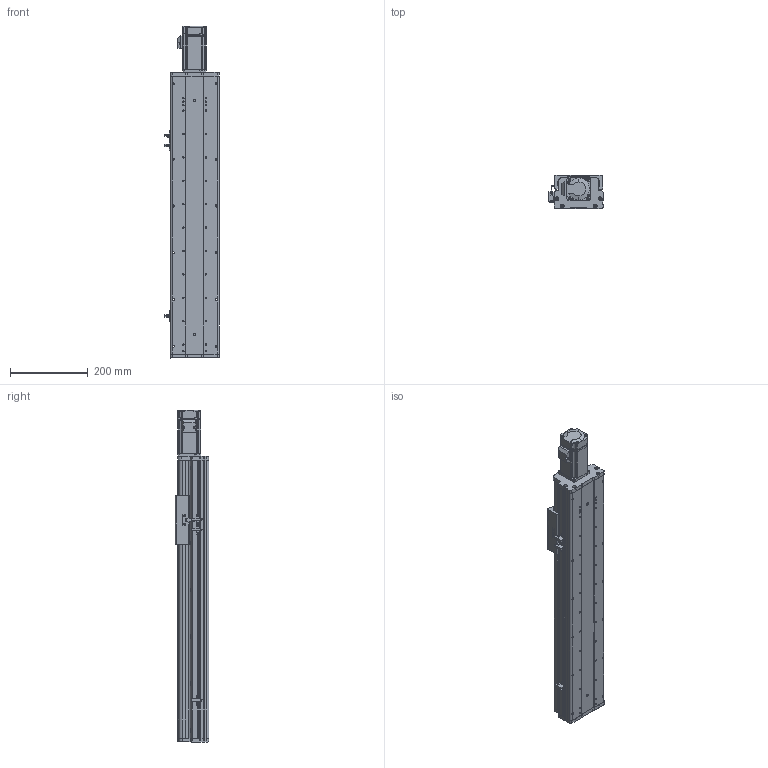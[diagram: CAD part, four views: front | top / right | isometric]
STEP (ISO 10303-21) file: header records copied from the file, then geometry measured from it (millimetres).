
FILE_DESCRIPTION (( 'STEP AP214' ), '1' );
FILE_NAME ('KSD125S-S450-MN-CM.STEP', '2017-08-07T06:11:45', ( '微软用户' ), ( '微软中国' ), 'SwSTEP 2.0', 'SolidWorks 2014', '' );
FILE_SCHEMA (( 'AUTOMOTIVE_DESIGN' ));
Length unit declared in the file: millimetre
Products named in the file (12): KSD125S-450行程丝杆防尘盖-直连不带电机座; KSD125S-450行程丝杆底板-直连不带电机座; 125宽模组 - 直连不带电机座电机安装板; MHMD042G1CA_2_03; 拸萇儂釱滅袉菜; 覜茼え68遵圉猾敕; U倰嫖萇假蚾璃; U倰嫖萇EEㄜSX672; KSD125-賑雄釱1; CS-34X32-10X14; 125-帣傷啣1; KSD125S-S450-MN-CM
Assembly tree (15 placements, depth 2):
  KSD125S-S450-MN-CM
    125-帣傷啣1
    CS-34X32-10X14
    KSD125-賑雄釱1
    U倰嫖萇EEㄜSX672  x3
    U倰嫖萇假蚾璃  x3
    覜茼え68遵圉猾敕
    拸萇儂釱滅袉菜
    MHMD042G1CA_2_03
    125宽模组 - 直连不带电机座电机安装板
    KSD125S-450行程丝杆底板-直连不带电机座
    KSD125S-450行程丝杆防尘盖-直连不带电机座
Bounding box: 138.7 x 86 x 851.5 mm (x, y, z)
Volume: 2520895.5 mm3; surface area: 835127.7 mm2
Topology: 14 solids, 17 shells, 1436 faces, 4155 edges, 2733 vertices
Faces by surface type: cylinder 708, plane 615, cone 91, bspline 22
Entity records: 50484 total; most frequent: CARTESIAN_POINT 10794, DIRECTION 7139, ORIENTED_EDGE 6818, EDGE_CURVE 3487, AXIS2_PLACEMENT_3D 2612, VERTEX_POINT 2325, VECTOR 1915, LINE 1915
